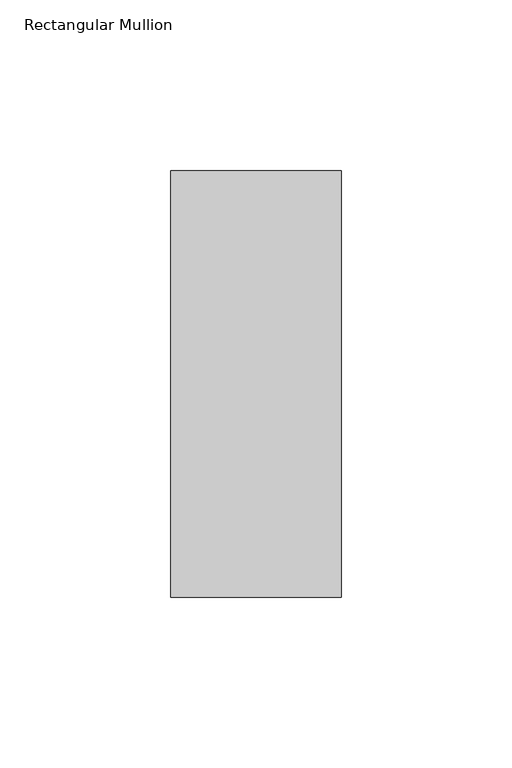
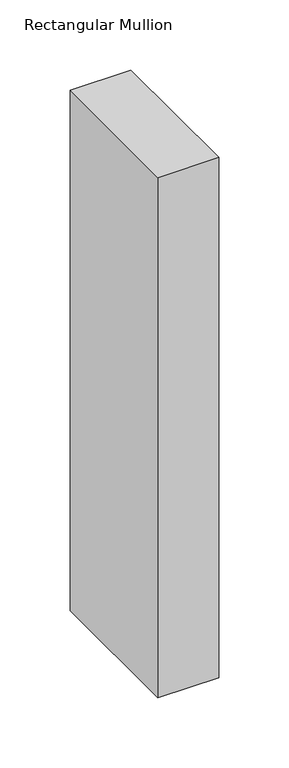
"""IFC4 building model written with IfcOpenShell, lengths in millimetres: member geometry, Rectangular Mullion : DucoSun Cubic Design profile 50x125 for louvre 600."""

from ifc_helpers import new_model, si_unit, frame, origin, place, context, project, spatial, polyline, outline, extrude, source, transform, mapped, element, save


def rectangular_mullion_c6cb1da7(model_context):
    return source(origin(), model_context, "Body", "SweptSolid", [
        extrude(outline(polyline([(0.0, -237.5), (0.0, -362.5), (-50.0, -362.5), (-50.0, -237.5), (0.0, -237.5)])), frame((0.0, 0.0, -452.4), z_axis=(0.0, 0.0, 1.0), x_axis=(1.0, 0.0, 0.0)), (0.0, 0.0, 1.0), 452.4),
    ])


if __name__ == "__main__":
    model = new_model("IFC4")
    model_context = context("Model", 3, world=origin())
    ifc_project = project(units=[si_unit("LENGTHUNIT", "METRE", prefix="MILLI")], contexts=[model_context])
    site = spatial("IfcSite", under=ifc_project)
    building = spatial("IfcBuilding", under=site)
    placement = place(None, origin())
    rectangular_mullion_shape = rectangular_mullion_c6cb1da7(model_context)
    element("IfcMember", 1, ObjectType="Rectangular Mullion : DucoSun Cubic Design profile 50x125 for louvre 600", at=placement, inside=building, context=model_context, shape_type="MappedRepresentation", body=[
        mapped(rectangular_mullion_shape, transform((0.0, 0.0, 0.0), x_axis=(1.0, 0.0, 0.0), y_axis=(0.0, 1.0, 0.0), z_axis=(0.0, 0.0, 1.0))),
    ])
    save(model, "model.ifc")
